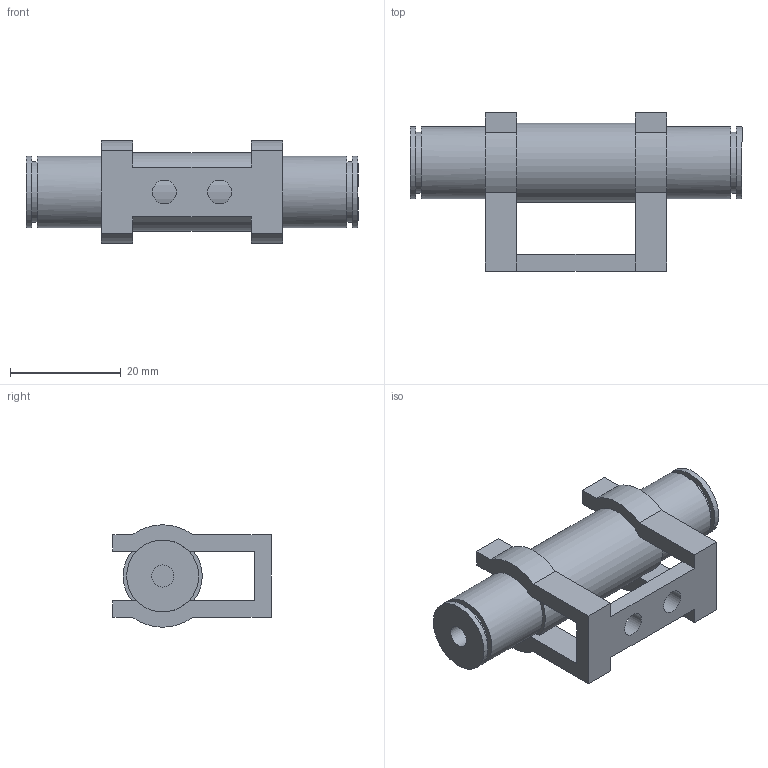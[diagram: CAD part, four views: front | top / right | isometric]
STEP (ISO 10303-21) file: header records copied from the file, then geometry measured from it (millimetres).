
FILE_DESCRIPTION(('STEP AP203'),'1');
FILE_NAME('BCVL-0504-C.stp','2025-07-18T00:58:33',(' '),(' '),'Spatial InterOp 3D',' ',' ');
FILE_SCHEMA(('CONFIG_CONTROL_DESIGN'));
Length unit declared in the file: millimetre
Products named in the file (1): 1
Bounding box: 60 x 28.6 x 18.5 mm (x, y, z)
Volume: 10994 mm3; surface area: 5676.2 mm2
Topology: 1 solids, 1 shells, 57 faces, 159 edges, 104 vertices
Faces by surface type: plane 42, cylinder 15
Full cylindrical faces by diameter (mm): 4 x2, 4.3 x2, 11 x2, 13 x4, 14.3 x1
Entity records: 1818 total; most frequent: CARTESIAN_POINT 306, DIRECTION 304, ORIENTED_EDGE 292, EDGE_CURVE 146, LINE 104, VECTOR 104, VERTEX_POINT 102, AXIS2_PLACEMENT_3D 100
